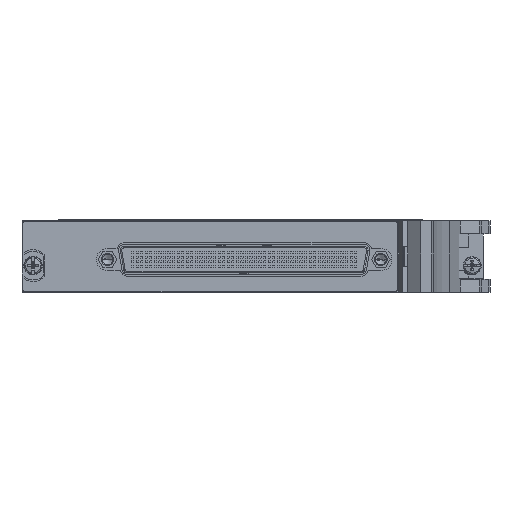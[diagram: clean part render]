
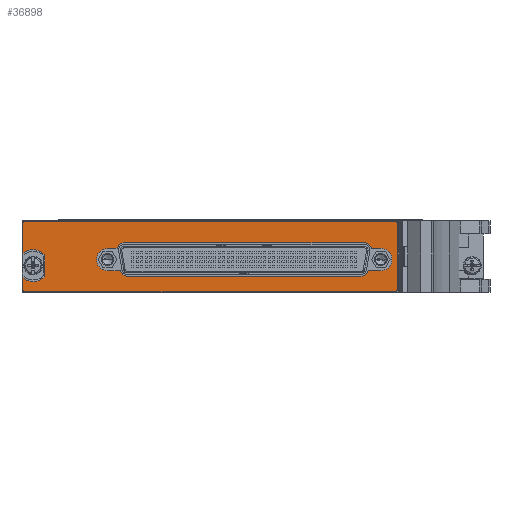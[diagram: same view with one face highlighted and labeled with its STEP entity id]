
A CAD part, left-side view. The second image highlights one B-rep face of the part: STEP entity #36898.
In plain terms, the highlighted planar face has unit normal (-1, 0, 0).
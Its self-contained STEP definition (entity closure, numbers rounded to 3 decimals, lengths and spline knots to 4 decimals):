
#5876=CARTESIAN_POINT('',(-4.2877,0.5347,0.6035));
#5877=DIRECTION('',(-1.,0.,0.));
#5878=DIRECTION('',(0.,0.,1.));
#5879=AXIS2_PLACEMENT_3D('',#5876,#5877,#5878);
#5881=DIRECTION('',(0.,1.,0.));
#5882=VECTOR('',#5881,4.07);
#5883=CARTESIAN_POINT('',(-4.2877,-3.5354,0.6235));
#5884=LINE('',#5883,#5882);
#5885=CARTESIAN_POINT('',(-4.2877,-3.5354,0.6035));
#5886=DIRECTION('',(-1.,0.,0.));
#5887=DIRECTION('',(0.,-1.,0.));
#5888=AXIS2_PLACEMENT_3D('',#5885,#5886,#5887);
#5890=DIRECTION('',(0.,0.,1.));
#5891=VECTOR('',#5890,0.728);
#5892=CARTESIAN_POINT('',(-4.2877,-3.5554,-0.1245));
#5893=LINE('',#5892,#5891);
#5894=CARTESIAN_POINT('',(-4.2877,-3.5354,-0.1245));
#5895=DIRECTION('',(-1.,0.,0.));
#5896=DIRECTION('',(0.,0.,-1.));
#5897=AXIS2_PLACEMENT_3D('',#5894,#5895,#5896);
#5899=DIRECTION('',(0.,-1.,0.));
#5900=VECTOR('',#5899,4.07);
#5901=CARTESIAN_POINT('',(-4.2877,0.5347,-0.1445));
#5902=LINE('',#5901,#5900);
#5903=CARTESIAN_POINT('',(-4.2877,0.5347,-0.1245));
#5904=DIRECTION('',(-1.,0.,0.));
#5905=DIRECTION('',(0.,1.,0.));
#5906=AXIS2_PLACEMENT_3D('',#5903,#5904,#5905);
#5908=DIRECTION('',(0.,0.,-1.));
#5909=VECTOR('',#5908,0.1295);
#5910=CARTESIAN_POINT('',(-4.2877,0.5547,0.005));
#5911=LINE('',#5910,#5909);
#5912=CARTESIAN_POINT('',(-4.2877,0.4427,0.1395));
#5913=DIRECTION('',(1.,0.,0.));
#5914=DIRECTION('',(0.,-0.737,-0.676));
#5915=AXIS2_PLACEMENT_3D('',#5912,#5913,#5914);
#5917=DIRECTION('',(0.,0.,-1.));
#5918=VECTOR('',#5917,0.2365);
#5919=CARTESIAN_POINT('',(-4.2877,0.3137,0.2578));
#5920=LINE('',#5919,#5918);
#5921=CARTESIAN_POINT('',(-4.2877,0.4427,0.1395));
#5922=DIRECTION('',(1.,0.,0.));
#5923=DIRECTION('',(0.,0.64,0.768));
#5924=AXIS2_PLACEMENT_3D('',#5921,#5922,#5923);
#5926=DIRECTION('',(0.,0.,-1.));
#5927=VECTOR('',#5926,0.3295);
#5928=CARTESIAN_POINT('',(-4.2877,0.5547,0.6035));
#5929=LINE('',#5928,#5927);
#5930=DIRECTION('',(0.,1.,0.));
#5931=VECTOR('',#5930,0.1034);
#5932=CARTESIAN_POINT('',(-4.2877,-3.3753,
0.3285));
#5933=LINE('',#5932,#5931);
#5934=CARTESIAN_POINT('',(-4.2877,-3.1921,
0.3095));
#5935=DIRECTION('',(-1.,0.,0.));
#5936=DIRECTION('',(0.,-0.973,0.232));
#5937=AXIS2_PLACEMENT_3D('',#5934,#5935,#5936);
#5939=DIRECTION('',(0.,1.,0.));
#5940=VECTOR('',#5939,2.6336);
#5941=CARTESIAN_POINT('',(-4.2877,-3.1921,
0.3915));
#5942=LINE('',#5941,#5940);
#5943=CARTESIAN_POINT('',(-4.2877,-0.5585,
0.3095));
#5944=DIRECTION('',(-1.,0.,0.));
#5945=DIRECTION('',(0.,0.,1.));
#5946=AXIS2_PLACEMENT_3D('',#5943,#5944,#5945);
#5948=DIRECTION('',(0.,1.,0.));
#5949=VECTOR('',#5948,0.1034);
#5950=CARTESIAN_POINT('',(-4.2877,-0.4788,
0.3285));
#5951=LINE('',#5950,#5949);
#5952=CARTESIAN_POINT('',(-4.2877,-0.3753,
0.2065));
#5953=DIRECTION('',(-1.,0.,0.));
#5954=DIRECTION('',(0.,0.,1.));
#5955=AXIS2_PLACEMENT_3D('',#5952,#5953,#5954);
#5957=DIRECTION('',(0.,-1.,0.));
#5958=VECTOR('',#5957,0.1396);
#5959=CARTESIAN_POINT('',(-4.2877,-0.3753,
0.0845));
#5960=LINE('',#5959,#5958);
#5961=CARTESIAN_POINT('',(-4.2877,-0.5947,
0.1035));
#5962=DIRECTION('',(-1.,0.,0.));
#5963=DIRECTION('',(0.,0.973,-0.232));
#5964=AXIS2_PLACEMENT_3D('',#5961,#5962,#5963);
#5966=DIRECTION('',(0.,-1.,0.));
#5967=VECTOR('',#5966,2.5613);
#5968=CARTESIAN_POINT('',(-4.2877,-0.5947,
0.0215));
#5969=LINE('',#5968,#5967);
#5970=CARTESIAN_POINT('',(-4.2877,-3.156,
0.1035));
#5971=DIRECTION('',(-1.,0.,0.));
#5972=DIRECTION('',(0.,0.,-1.));
#5973=AXIS2_PLACEMENT_3D('',#5970,#5971,#5972);
#5975=DIRECTION('',(0.,-1.,0.));
#5976=VECTOR('',#5975,0.1396);
#5977=CARTESIAN_POINT('',(-4.2877,-3.2357,
0.0845));
#5978=LINE('',#5977,#5976);
#5979=CARTESIAN_POINT('',(-4.2877,-3.3753,
0.2065));
#5980=DIRECTION('',(-1.,0.,0.));
#5981=DIRECTION('',(0.,0.,-1.));
#5982=AXIS2_PLACEMENT_3D('',#5979,#5980,#5981);
#32618=CARTESIAN_POINT('',(-4.2877,0.5347,0.6235));
#32619=CARTESIAN_POINT('',(-4.2877,0.5547,0.6035));
#32620=VERTEX_POINT('',#32618);
#32621=VERTEX_POINT('',#32619);
#32622=CARTESIAN_POINT('',(-4.2877,0.5547,0.274));
#32623=VERTEX_POINT('',#32622);
#32624=CARTESIAN_POINT('',(-4.2877,0.3137,0.2578));
#32625=VERTEX_POINT('',#32624);
#32626=CARTESIAN_POINT('',(-4.2877,0.3137,0.0212));
#32627=VERTEX_POINT('',#32626);
#32628=CARTESIAN_POINT('',(-4.2877,0.5547,0.005));
#32629=VERTEX_POINT('',#32628);
#32630=CARTESIAN_POINT('',(-4.2877,0.5547,-0.1245));
#32631=VERTEX_POINT('',#32630);
#32632=CARTESIAN_POINT('',(-4.2877,0.5347,-0.1445));
#32633=VERTEX_POINT('',#32632);
#32634=CARTESIAN_POINT('',(-4.2877,-3.5354,-0.1445));
#32635=VERTEX_POINT('',#32634);
#32636=CARTESIAN_POINT('',(-4.2877,-3.5554,-0.1245));
#32637=VERTEX_POINT('',#32636);
#32638=CARTESIAN_POINT('',(-4.2877,-3.5554,0.6035));
#32639=VERTEX_POINT('',#32638);
#32640=CARTESIAN_POINT('',(-4.2877,-3.5354,0.6235));
#32641=VERTEX_POINT('',#32640);
#32642=CARTESIAN_POINT('',(-4.2877,-3.3753,
0.3285));
#32643=CARTESIAN_POINT('',(-4.2877,-3.2719,
0.3285));
#32644=VERTEX_POINT('',#32642);
#32645=VERTEX_POINT('',#32643);
#32646=CARTESIAN_POINT('',(-4.2877,-3.1921,
0.3915));
#32647=VERTEX_POINT('',#32646);
#32648=CARTESIAN_POINT('',(-4.2877,-0.5585,
0.3915));
#32649=VERTEX_POINT('',#32648);
#32650=CARTESIAN_POINT('',(-4.2877,-0.4788,
0.3285));
#32651=VERTEX_POINT('',#32650);
#32652=CARTESIAN_POINT('',(-4.2877,-0.3753,
0.3285));
#32653=VERTEX_POINT('',#32652);
#32654=CARTESIAN_POINT('',(-4.2877,-0.3753,
0.0845));
#32655=VERTEX_POINT('',#32654);
#32656=CARTESIAN_POINT('',(-4.2877,-0.5149,
0.0845));
#32657=VERTEX_POINT('',#32656);
#32658=CARTESIAN_POINT('',(-4.2877,-0.5947,
0.0215));
#32659=VERTEX_POINT('',#32658);
#32660=CARTESIAN_POINT('',(-4.2877,-3.156,
0.0215));
#32661=VERTEX_POINT('',#32660);
#32662=CARTESIAN_POINT('',(-4.2877,-3.2357,
0.0845));
#32663=VERTEX_POINT('',#32662);
#32664=CARTESIAN_POINT('',(-4.2877,-3.3753,
0.0845));
#32665=VERTEX_POINT('',#32664);
#36844=CARTESIAN_POINT('',(-4.2877,0.4427,0.1395));
#36845=DIRECTION('',(-1.,0.,0.));
#36846=DIRECTION('',(0.,0.,1.));
#36847=AXIS2_PLACEMENT_3D('',#36844,#36845,#36846);
#36848=PLANE('',#36847);
#36849=ORIENTED_EDGE('',*,*,#36824,.F.);
#36850=ORIENTED_EDGE('',*,*,#36838,.F.);
#36851=ORIENTED_EDGE('',*,*,#36756,.F.);
#36853=ORIENTED_EDGE('',*,*,#36852,.F.);
#36855=ORIENTED_EDGE('',*,*,#36854,.F.);
#36857=ORIENTED_EDGE('',*,*,#36856,.F.);
#36859=ORIENTED_EDGE('',*,*,#36858,.F.);
#36861=ORIENTED_EDGE('',*,*,#36860,.F.);
#36863=ORIENTED_EDGE('',*,*,#36862,.F.);
#36865=ORIENTED_EDGE('',*,*,#36864,.F.);
#36867=ORIENTED_EDGE('',*,*,#36866,.F.);
#36869=ORIENTED_EDGE('',*,*,#36868,.F.);
#36870=EDGE_LOOP('',(#36849,#36850,#36851,#36853,#36855,#36857,#36859,#36861,
#36863,#36865,#36867,#36869));
#36871=FACE_OUTER_BOUND('',#36870,.F.);
#36873=ORIENTED_EDGE('',*,*,#36872,.T.);
#36875=ORIENTED_EDGE('',*,*,#36874,.T.);
#36877=ORIENTED_EDGE('',*,*,#36876,.T.);
#36879=ORIENTED_EDGE('',*,*,#36878,.T.);
#36881=ORIENTED_EDGE('',*,*,#36880,.T.);
#36883=ORIENTED_EDGE('',*,*,#36882,.T.);
#36885=ORIENTED_EDGE('',*,*,#36884,.T.);
#36887=ORIENTED_EDGE('',*,*,#36886,.T.);
#36889=ORIENTED_EDGE('',*,*,#36888,.T.);
#36891=ORIENTED_EDGE('',*,*,#36890,.T.);
#36893=ORIENTED_EDGE('',*,*,#36892,.T.);
#36895=ORIENTED_EDGE('',*,*,#36894,.T.);
#36896=EDGE_LOOP('',(#36873,#36875,#36877,#36879,#36881,#36883,#36885,#36887,
#36889,#36891,#36893,#36895));
#36897=FACE_BOUND('',#36896,.F.);
#36898=ADVANCED_FACE('',(#36871,#36897),#36848,.T.);
#5880=CIRCLE('',#5879,0.02);
#5889=CIRCLE('',#5888,0.02);
#5898=CIRCLE('',#5897,0.02);
#5907=CIRCLE('',#5906,0.02);
#5916=CIRCLE('',#5915,0.175);
#5925=CIRCLE('',#5924,0.175);
#5938=CIRCLE('',#5937,0.082);
#5947=CIRCLE('',#5946,0.082);
#5956=CIRCLE('',#5955,0.122);
#5965=CIRCLE('',#5964,0.082);
#5974=CIRCLE('',#5973,0.082);
#5983=CIRCLE('',#5982,0.122);
#36756=EDGE_CURVE('',#32639,#32641,#5889,.T.);
#36824=EDGE_CURVE('',#32620,#32621,#5880,.T.);
#36838=EDGE_CURVE('',#32641,#32620,#5884,.T.);
#36852=EDGE_CURVE('',#32637,#32639,#5893,.T.);
#36854=EDGE_CURVE('',#32635,#32637,#5898,.T.);
#36856=EDGE_CURVE('',#32633,#32635,#5902,.T.);
#36858=EDGE_CURVE('',#32631,#32633,#5907,.T.);
#36860=EDGE_CURVE('',#32629,#32631,#5911,.T.);
#36862=EDGE_CURVE('',#32627,#32629,#5916,.T.);
#36864=EDGE_CURVE('',#32625,#32627,#5920,.T.);
#36866=EDGE_CURVE('',#32623,#32625,#5925,.T.);
#36868=EDGE_CURVE('',#32621,#32623,#5929,.T.);
#36872=EDGE_CURVE('',#32644,#32645,#5933,.T.);
#36874=EDGE_CURVE('',#32645,#32647,#5938,.T.);
#36876=EDGE_CURVE('',#32647,#32649,#5942,.T.);
#36878=EDGE_CURVE('',#32649,#32651,#5947,.T.);
#36880=EDGE_CURVE('',#32651,#32653,#5951,.T.);
#36882=EDGE_CURVE('',#32653,#32655,#5956,.T.);
#36884=EDGE_CURVE('',#32655,#32657,#5960,.T.);
#36886=EDGE_CURVE('',#32657,#32659,#5965,.T.);
#36888=EDGE_CURVE('',#32659,#32661,#5969,.T.);
#36890=EDGE_CURVE('',#32661,#32663,#5974,.T.);
#36892=EDGE_CURVE('',#32663,#32665,#5978,.T.);
#36894=EDGE_CURVE('',#32665,#32644,#5983,.T.);
